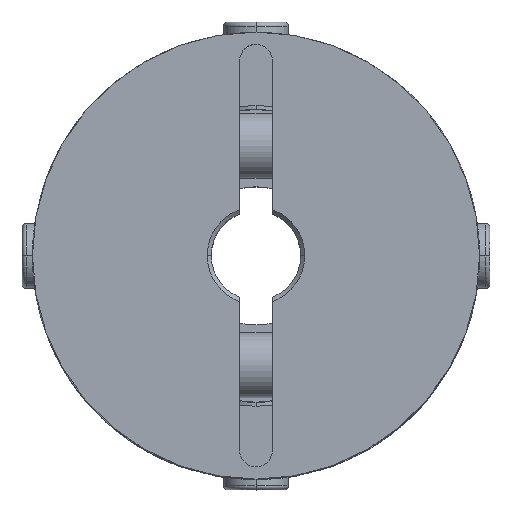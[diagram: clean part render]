
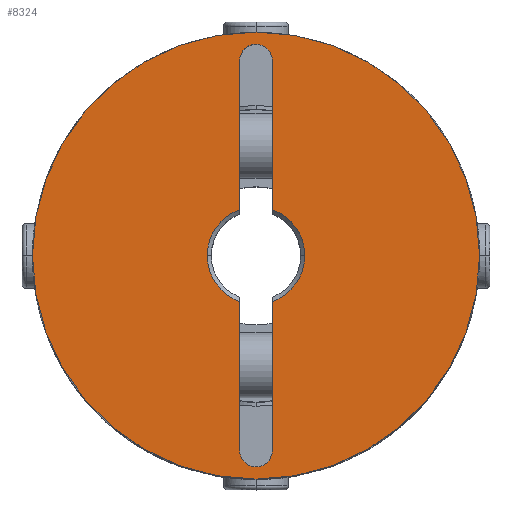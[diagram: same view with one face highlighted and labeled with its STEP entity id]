
A CAD part, top view. The second image highlights one B-rep face of the part: STEP entity #8324.
In plain terms, the highlighted planar face has unit normal (0, 0, 1).
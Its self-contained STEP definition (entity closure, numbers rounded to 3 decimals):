
#632=CARTESIAN_POINT('',(6.,0.,29.0));
#633=VERTEX_POINT('',#632);
#649=CARTESIAN_POINT('',(2.,-5.657,29.0));
#650=VERTEX_POINT('',#649);
#664=CARTESIAN_POINT('',(0.,0.0,29.0));
#665=DIRECTION('',(0.0,0.0,1.0));
#666=DIRECTION('',(-1.0,0.0,0.0));
#667=AXIS2_PLACEMENT_3D('',#664,#665,#666);
#668=CIRCLE('',#667,6.0);
#669=EDGE_CURVE('',#650,#633,#668,.T.);
#831=CARTESIAN_POINT('',(-6.,0.,29.0));
#832=VERTEX_POINT('',#831);
#839=CARTESIAN_POINT('',(-2.,-5.657,29.0));
#840=VERTEX_POINT('',#839);
#841=CARTESIAN_POINT('',(0.,0.0,29.0));
#842=DIRECTION('',(0.0,0.0,1.0));
#843=DIRECTION('',(-1.0,0.0,0.0));
#844=AXIS2_PLACEMENT_3D('',#841,#842,#843);
#845=CIRCLE('',#844,6.0);
#846=EDGE_CURVE('',#832,#840,#845,.T.);
#872=CARTESIAN_POINT('',(-1.414,25.414,29.0));
#873=VERTEX_POINT('',#872);
#889=CARTESIAN_POINT('',(2.,24.,29.0));
#890=VERTEX_POINT('',#889);
#897=CARTESIAN_POINT('',(0.,24.,29.0));
#898=DIRECTION('',(0.0,0.0,1.));
#899=DIRECTION('',(0.707,0.707,0.0));
#900=AXIS2_PLACEMENT_3D('',#897,#898,#899);
#901=CIRCLE('',#900,2.);
#902=EDGE_CURVE('',#890,#873,#901,.T.);
#914=CARTESIAN_POINT('',(1.414,-25.414,29.0));
#915=VERTEX_POINT('',#914);
#931=CARTESIAN_POINT('',(-2.,-24.,29.0));
#932=VERTEX_POINT('',#931);
#939=CARTESIAN_POINT('',(0.,-24.,29.0));
#940=DIRECTION('',(0.0,0.0,1.0));
#941=DIRECTION('',(-0.707,-0.707,0.0));
#942=AXIS2_PLACEMENT_3D('',#939,#940,#941);
#943=CIRCLE('',#942,2.0);
#944=EDGE_CURVE('',#932,#915,#943,.T.);
#1499=CARTESIAN_POINT('',(-27.5,0.,29.0));
#1500=VERTEX_POINT('',#1499);
#1507=CARTESIAN_POINT('',(27.5,0.0,29.0));
#1508=VERTEX_POINT('',#1507);
#1509=CARTESIAN_POINT('',(0.,0.0,29.0));
#1510=DIRECTION('',(0.0,0.0,-1.0));
#1511=DIRECTION('',(1.0,0.0,0.0));
#1512=AXIS2_PLACEMENT_3D('',#1509,#1510,#1511);
#1513=CIRCLE('',#1512,27.5);
#1514=EDGE_CURVE('',#1500,#1508,#1513,.T.);
#7525=CARTESIAN_POINT('',(0.,0.0,29.0));
#7526=DIRECTION('',(0.0,0.0,-1.0));
#7527=DIRECTION('',(1.0,0.0,0.0));
#7528=AXIS2_PLACEMENT_3D('',#7525,#7526,#7527);
#7529=CIRCLE('',#7528,27.5);
#7530=EDGE_CURVE('',#1508,#1500,#7529,.T.);
#8083=CARTESIAN_POINT('',(2.,-24.,29.0));
#8084=VERTEX_POINT('',#8083);
#8085=CARTESIAN_POINT('',(0.,-24.,29.0));
#8086=DIRECTION('',(0.0,0.0,1.0));
#8087=DIRECTION('',(-0.707,-0.707,0.0));
#8088=AXIS2_PLACEMENT_3D('',#8085,#8086,#8087);
#8089=CIRCLE('',#8088,2.0);
#8090=EDGE_CURVE('',#915,#8084,#8089,.T.);
#8108=CARTESIAN_POINT('',(2.,-5.657,29.0));
#8109=DIRECTION('',(0.0,-1.0,0.0));
#8110=VECTOR('',#8109,18.343);
#8111=LINE('',#8108,#8110);
#8112=EDGE_CURVE('',#650,#8084,#8111,.T.);
#8131=CARTESIAN_POINT('',(-2.,24.,29.0));
#8132=VERTEX_POINT('',#8131);
#8133=CARTESIAN_POINT('',(0.,24.,29.0));
#8134=DIRECTION('',(0.0,0.0,1.));
#8135=DIRECTION('',(0.707,0.707,0.0));
#8136=AXIS2_PLACEMENT_3D('',#8133,#8134,#8135);
#8137=CIRCLE('',#8136,2.);
#8138=EDGE_CURVE('',#873,#8132,#8137,.T.);
#8156=CARTESIAN_POINT('',(-2.,5.657,29.0));
#8157=VERTEX_POINT('',#8156);
#8158=CARTESIAN_POINT('',(-2.,5.657,29.0));
#8159=DIRECTION('',(0.0,1.0,0.0));
#8160=VECTOR('',#8159,18.343);
#8161=LINE('',#8158,#8160);
#8162=EDGE_CURVE('',#8157,#8132,#8161,.T.);
#8238=CARTESIAN_POINT('',(2.,5.657,29.0));
#8239=VERTEX_POINT('',#8238);
#8253=CARTESIAN_POINT('',(2.,24.,29.0));
#8254=DIRECTION('',(0.0,-1.0,0.0));
#8255=VECTOR('',#8254,18.343);
#8256=LINE('',#8253,#8255);
#8257=EDGE_CURVE('',#890,#8239,#8256,.T.);
#8276=CARTESIAN_POINT('',(-2.,-24.,29.0));
#8277=DIRECTION('',(0.0,1.0,0.0));
#8278=VECTOR('',#8277,18.343);
#8279=LINE('',#8276,#8278);
#8280=EDGE_CURVE('',#932,#840,#8279,.T.);
#8289=CARTESIAN_POINT('',(2.5,0.,29.0));
#8290=DIRECTION('',(0.0,0.0,1.0));
#8291=DIRECTION('',(1.0,0.0,0.0));
#8292=AXIS2_PLACEMENT_3D('',#8289,#8290,#8291);
#8293=PLANE('',#8292);
#8294=ORIENTED_EDGE('',*,*,#7530,.F.);
#8295=ORIENTED_EDGE('',*,*,#1514,.F.);
#8296=EDGE_LOOP('',(#8294,#8295));
#8297=FACE_OUTER_BOUND('',#8296,.T.);
#8298=ORIENTED_EDGE('',*,*,#8112,.T.);
#8299=ORIENTED_EDGE('',*,*,#8090,.F.);
#8300=ORIENTED_EDGE('',*,*,#944,.F.);
#8301=ORIENTED_EDGE('',*,*,#8280,.T.);
#8302=ORIENTED_EDGE('',*,*,#846,.F.);
#8303=CARTESIAN_POINT('',(0.,0.0,29.0));
#8304=DIRECTION('',(0.0,0.0,1.0));
#8305=DIRECTION('',(-1.0,0.0,0.0));
#8306=AXIS2_PLACEMENT_3D('',#8303,#8304,#8305);
#8307=CIRCLE('',#8306,6.0);
#8308=EDGE_CURVE('',#8157,#832,#8307,.T.);
#8309=ORIENTED_EDGE('',*,*,#8308,.F.);
#8310=ORIENTED_EDGE('',*,*,#8162,.T.);
#8311=ORIENTED_EDGE('',*,*,#8138,.F.);
#8312=ORIENTED_EDGE('',*,*,#902,.F.);
#8313=ORIENTED_EDGE('',*,*,#8257,.T.);
#8314=CARTESIAN_POINT('',(0.,0.0,29.0));
#8315=DIRECTION('',(0.0,0.0,1.0));
#8316=DIRECTION('',(-1.0,0.0,0.0));
#8317=AXIS2_PLACEMENT_3D('',#8314,#8315,#8316);
#8318=CIRCLE('',#8317,6.0);
#8319=EDGE_CURVE('',#633,#8239,#8318,.T.);
#8320=ORIENTED_EDGE('',*,*,#8319,.F.);
#8321=ORIENTED_EDGE('',*,*,#669,.F.);
#8322=EDGE_LOOP('',(#8298,#8299,#8300,#8301,#8302,#8309,#8310,#8311,#8312,#8313,#8320,#8321));
#8323=FACE_BOUND('',#8322,.T.);
#8324=ADVANCED_FACE('',(#8297,#8323),#8293,.T.);
